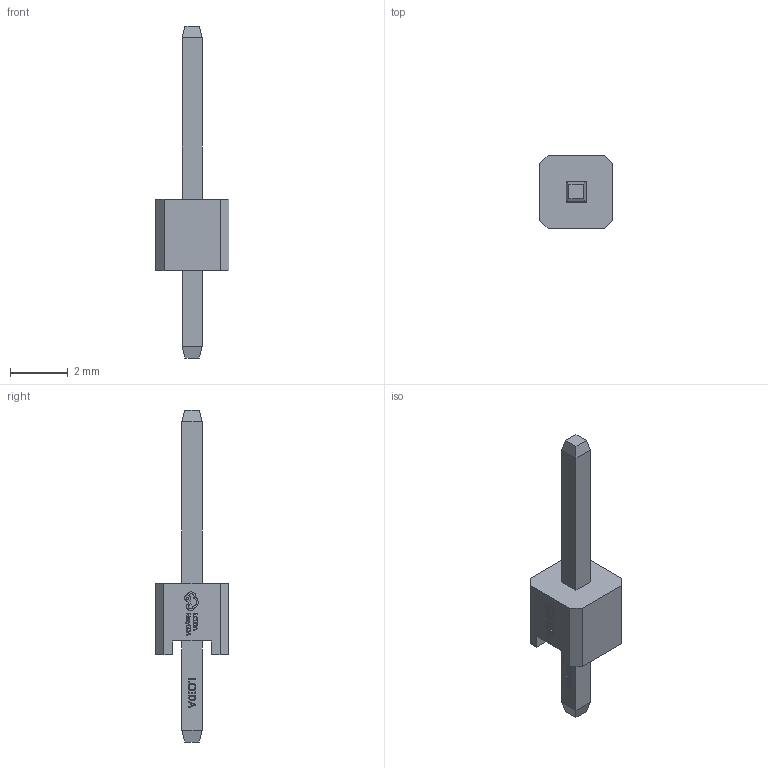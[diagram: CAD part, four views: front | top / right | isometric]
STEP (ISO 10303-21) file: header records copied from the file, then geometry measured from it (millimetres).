
FILE_DESCRIPTION(/* description */ ('STEP AP242 Edition 2','CAx-IF Rec.Pracs.---Representation and Presentation of Product Manufacturing Information (PMI)---4.0---2014-10-13','CAx-IF Rec.Pracs.---3D Tessellated Geometry---0.4---2014-09-14','2;1','CAx-IF Rec.Pracs.---User Defined Attributes---1.5---2016-08-15'),/* implementation_level */ '2;1');
FILE_NAME(/* name */ 'Assembly 1 - BAT-TH_2P-9VBATTERY~HDR-TH_2P-P2.54-M-LI-1X2P_1~nxQB (1)',/* time_stamp */ '2026-04-02T09:55:07Z',/* author */ (''),/* organization */ (''),/* preprocessor_version */ 'ST-DEVELOPER v20',/* originating_system */ 'ONSHAPE BY PTC INC, 1.212',/* authorisation */ ' ');
FILE_SCHEMA (('AP242_MANAGED_MODEL_BASED_3D_ENGINEERING_MIM_LF { 1 0 10303 442 3 1 4 }'));
Length unit declared in the file: metre
Products named in the file (1): BAT-TH_2P-9VBATTERY~HDR-TH_2P-P2.54-M-LI-1X2P_1~nxQB
Bounding box: 2.55 x 2.54 x 11.5 mm (x, y, z)
Volume: 18.4 mm3; surface area: 63.1 mm2
Topology: 1 solids, 1 shells, 315 faces, 847 edges, 562 vertices
Faces by surface type: plane 205, cylinder 84, bspline 18, sphere 8
Entity records: 12702 total; most frequent: CARTESIAN_POINT 2677, ORIENTED_EDGE 1694, DIRECTION 1503, EDGE_CURVE 847, VERTEX_POINT 562, LINE 539, VECTOR 539, AXIS2_PLACEMENT_3D 482
